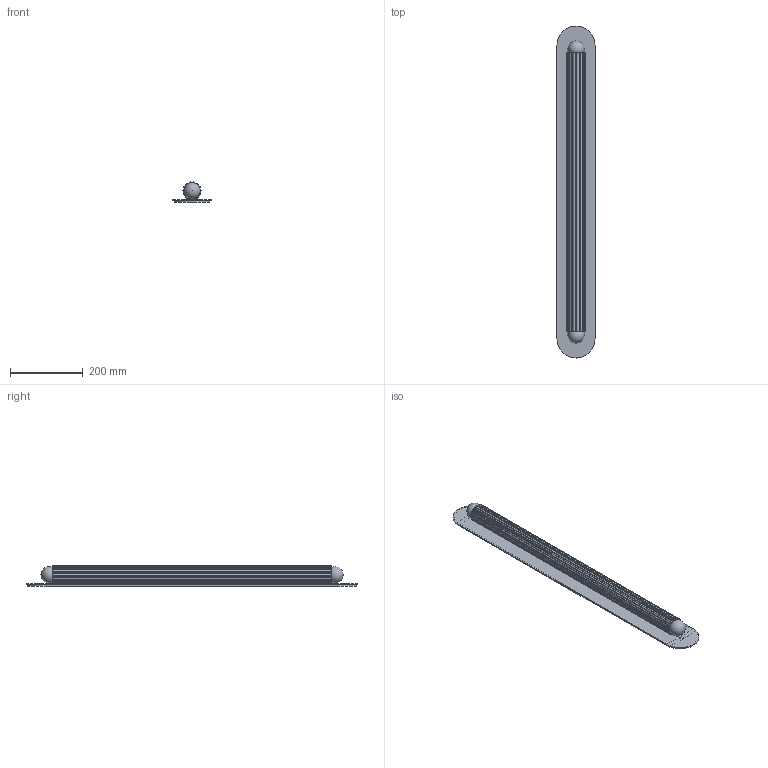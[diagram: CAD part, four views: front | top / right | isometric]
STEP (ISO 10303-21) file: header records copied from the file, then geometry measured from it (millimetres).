
FILE_DESCRIPTION(/* description */ (''),/* implementation_level */ '2;1');
FILE_NAME(/* name */ '250711_B_B744 Vesta XLG.stp',/* time_stamp */ '2025-07-11T08:27:04+02:00',/* author */ ('Lukasz'),/* organization */ (''),/* preprocessor_version */ 'ST-DEVELOPER v20.1',/* originating_system */ 'Autodesk Inventor 2026',/* authorisation */ '');
FILE_SCHEMA (('AUTOMOTIVE_DESIGN { 1 0 10303 214 3 1 1 }'));
Length unit declared in the file: millimetre
Products named in the file (1): Część17
Bounding box: 105 x 915 x 55.2 mm (x, y, z)
Volume: 810778.4 mm3; surface area: 646535.8 mm2
Topology: 10 solids, 10 shells, 201 faces, 531 edges, 350 vertices
Faces by surface type: plane 92, cylinder 83, cone 10, torus 10, bspline 4, sphere 2
Full cylindrical faces by diameter (mm): 2.693 x2, 3 x2, 4.917 x1, 5.5 x2, 6 x1, 10 x2, 10.5 x1, 12 x2, 17 x2
Entity records: 6952 total; most frequent: CARTESIAN_POINT 1513, DIRECTION 1121, ORIENTED_EDGE 1058, EDGE_CURVE 529, AXIS2_PLACEMENT_3D 416, VERTEX_POINT 350, LINE 289, VECTOR 289
